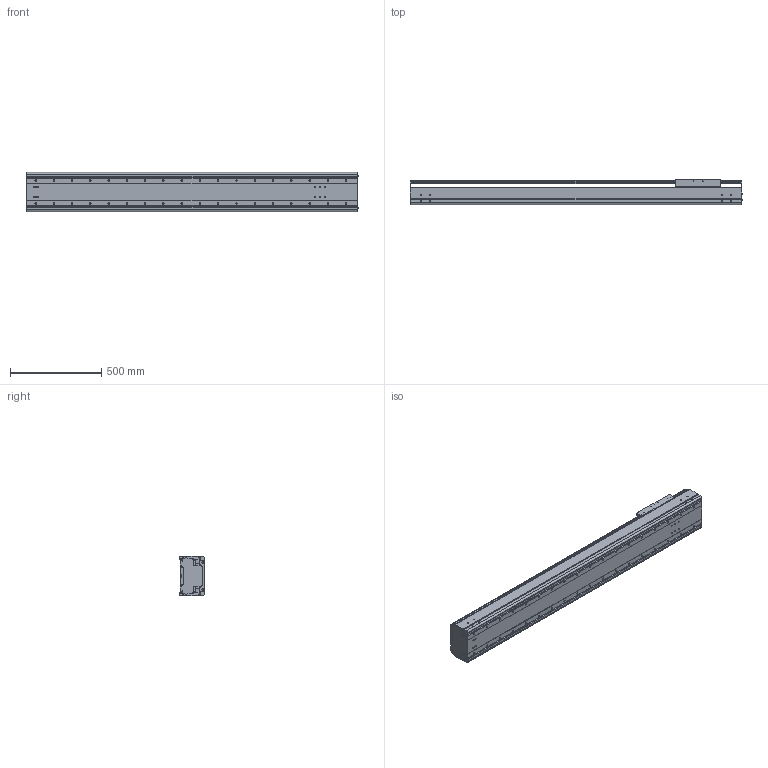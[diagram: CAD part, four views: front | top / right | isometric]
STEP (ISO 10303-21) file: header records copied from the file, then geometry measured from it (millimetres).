
FILE_DESCRIPTION((''),'2;1');
FILE_NAME('BE60G-ST-M_N-E0_IGS_PRT','2017-06-18T',(' '),(''),'PRO/ENGINEER BY PARAMETRIC TECHNOLOGY CORPORATION, 2015030','PRO/ENGINEER BY PARAMETRIC TECHNOLOGY CORPORATION, 2015030','');
FILE_SCHEMA(('CONFIG_CONTROL_DESIGN'));
Length unit declared in the file: millimetre
Products named in the file (1): BE60G-ST-M_N-E0_IGS_PRT
Bounding box: 1817.4 x 140 x 214 mm (x, y, z)
Volume: 14229114.8 mm3; surface area: 3801512.6 mm2
Topology: 2 solids, 164 shells, 1694 faces, 4761 edges, 3131 vertices
Faces by surface type: cylinder 888, plane 634, cone 124, sphere 24, torus 24
Entity records: 56955 total; most frequent: CARTESIAN_POINT 13158, DIRECTION 9176, ORIENTED_EDGE 8634, EDGE_CURVE 4637, AXIS2_PLACEMENT_3D 3441, VERTEX_POINT 3129, VECTOR 2294, LINE 2294
